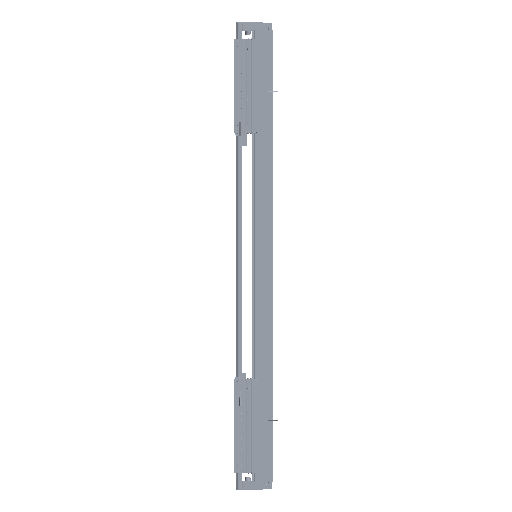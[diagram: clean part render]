
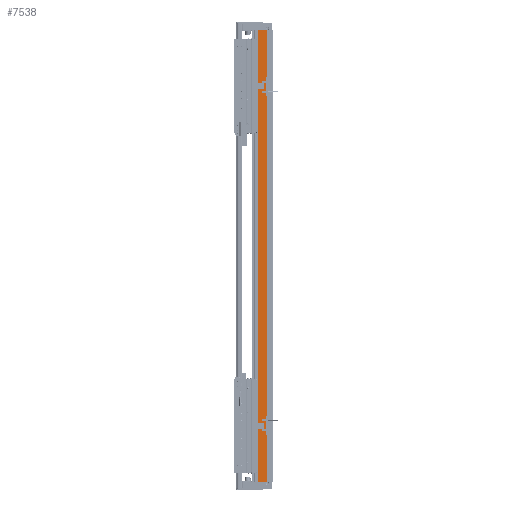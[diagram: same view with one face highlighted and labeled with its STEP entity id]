
A CAD part, left-side view. The second image highlights one B-rep face of the part: STEP entity #7538.
In plain terms, the highlighted planar face has unit normal (-1, 0, 0).
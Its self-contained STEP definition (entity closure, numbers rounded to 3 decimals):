
#1244 = VECTOR ( 'NONE', #99645, 1000. ) ;
#7497 = EDGE_CURVE ( 'NONE', #37337, #97912, #82805, .T. ) ;
#7538 = ADVANCED_FACE ( 'NONE', ( #81266 ), #47382, .F. ) ;
#12691 = DIRECTION ( 'NONE',  ( 0., -1., 0. ) ) ;
#15488 = CARTESIAN_POINT ( 'NONE',  ( -97.5, 36.95, 600. ) ) ;
#15716 = ORIENTED_EDGE ( 'NONE', *, *, #138776, .T. ) ;
#29614 = DIRECTION ( 'NONE',  ( 0., 0., -1. ) ) ;
#31152 = CARTESIAN_POINT ( 'NONE',  ( -97.5, 14.45, -600. ) ) ;
#34562 = CARTESIAN_POINT ( 'NONE',  ( -97.5, 36.95, 600. ) ) ;
#37337 = VERTEX_POINT ( 'NONE', #132043 ) ;
#40629 = CARTESIAN_POINT ( 'NONE',  ( -97.5, 36.95, 600. ) ) ;
#47382 = PLANE ( 'NONE',  #113044 ) ;
#52509 = ORIENTED_EDGE ( 'NONE', *, *, #131737, .T. ) ;
#81266 = FACE_OUTER_BOUND ( 'NONE', #153217, .T. ) ;
#82805 = LINE ( 'NONE', #119002, #110351 ) ;
#88626 = LINE ( 'NONE', #15488, #1244 ) ;
#95386 = DIRECTION ( 'NONE',  ( 1., 0., 0. ) ) ;
#96214 = VECTOR ( 'NONE', #12691, 1000. ) ;
#97912 = VERTEX_POINT ( 'NONE', #31152 ) ;
#99174 = LINE ( 'NONE', #122815, #96214 ) ;
#99645 = DIRECTION ( 'NONE',  ( 0., -1., 0. ) ) ;
#105049 = VERTEX_POINT ( 'NONE', #34562 ) ;
#110351 = VECTOR ( 'NONE', #131599, 1000. ) ;
#111820 = CARTESIAN_POINT ( 'NONE',  ( -97.5, 36.95, -600. ) ) ;
#113044 = AXIS2_PLACEMENT_3D ( 'NONE', #117452, #95386, #154497 ) ;
#117452 = CARTESIAN_POINT ( 'NONE',  ( -97.5, 36.95, 600. ) ) ;
#119002 = CARTESIAN_POINT ( 'NONE',  ( -97.5, 14.45, 600. ) ) ;
#122815 = CARTESIAN_POINT ( 'NONE',  ( -97.5, 36.95, -600. ) ) ;
#124078 = LINE ( 'NONE', #40629, #149567 ) ;
#131599 = DIRECTION ( 'NONE',  ( 0., 0., -1. ) ) ;
#131737 = EDGE_CURVE ( 'NONE', #136195, #97912, #99174, .T. ) ;
#132043 = CARTESIAN_POINT ( 'NONE',  ( -97.5, 14.45, 600. ) ) ;
#136195 = VERTEX_POINT ( 'NONE', #111820 ) ;
#138519 = ORIENTED_EDGE ( 'NONE', *, *, #138699, .F. ) ;
#138699 = EDGE_CURVE ( 'NONE', #105049, #37337, #88626, .T. ) ;
#138776 = EDGE_CURVE ( 'NONE', #105049, #136195, #124078, .T. ) ;
#149567 = VECTOR ( 'NONE', #29614, 1000. ) ;
#150616 = ORIENTED_EDGE ( 'NONE', *, *, #7497, .F. ) ;
#153217 = EDGE_LOOP ( 'NONE', ( #52509, #150616, #138519, #15716 ) ) ;
#154497 = DIRECTION ( 'NONE',  ( 0., 1., 0. ) ) ;
